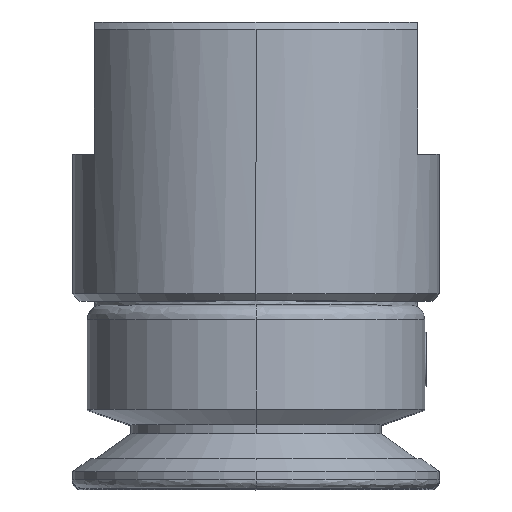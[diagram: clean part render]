
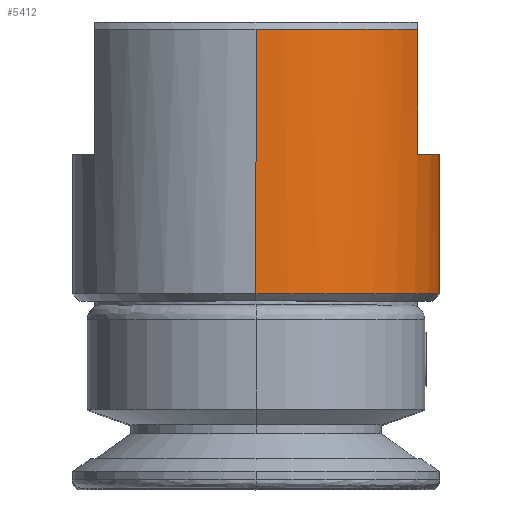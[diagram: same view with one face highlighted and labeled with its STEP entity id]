
A CAD part, top view. The second image highlights one B-rep face of the part: STEP entity #5412.
In plain terms, the highlighted cylindrical face has radius 12.5 mm (diameter 25 mm), a partial arc.
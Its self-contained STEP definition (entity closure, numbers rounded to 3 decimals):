
#168 = CARTESIAN_POINT ( 'NONE',  ( 0., 13.3, 0. ) ) ;
#191 = DIRECTION ( 'NONE',  ( 0., 0., -1. ) ) ;
#334 = EDGE_CURVE ( 'NONE', #5375, #3098, #5591, .T. ) ;
#422 = CYLINDRICAL_SURFACE ( 'NONE', #5331, 12.5 ) ;
#554 = VECTOR ( 'NONE', #3453, 1000. ) ;
#762 = LINE ( 'NONE', #6751, #554 ) ;
#831 = DIRECTION ( 'NONE',  ( 0., 0., -1. ) ) ;
#879 = CARTESIAN_POINT ( 'NONE',  ( 0., 31.3, -12.5 ) ) ;
#1272 = EDGE_LOOP ( 'NONE', ( #3823, #7706, #2082, #6918, #4963, #4316, #7432, #4283 ) ) ;
#1452 = AXIS2_PLACEMENT_3D ( 'NONE', #168, #4801, #831 ) ;
#1624 = DIRECTION ( 'NONE',  ( 0., 0., -1. ) ) ;
#1726 = VECTOR ( 'NONE', #8405, 1000. ) ;
#2082 = ORIENTED_EDGE ( 'NONE', *, *, #3660, .T. ) ;
#2285 = CARTESIAN_POINT ( 'NONE',  ( 11., 22.8, -5.937 ) ) ;
#2292 = CARTESIAN_POINT ( 'NONE',  ( 0., 22.8, 0. ) ) ;
#2335 = DIRECTION ( 'NONE',  ( 0., 0., -1. ) ) ;
#2586 = EDGE_CURVE ( 'NONE', #7233, #6202, #3907, .T. ) ;
#2654 = CARTESIAN_POINT ( 'NONE',  ( 0., 13.3, 12.5 ) ) ;
#2824 = CIRCLE ( 'NONE', #1452, 12.5 ) ;
#3015 = FACE_OUTER_BOUND ( 'NONE', #1272, .T. ) ;
#3098 = VERTEX_POINT ( 'NONE', #6579 ) ;
#3307 = EDGE_CURVE ( 'NONE', #6827, #5375, #762, .T. ) ;
#3453 = DIRECTION ( 'NONE',  ( 0., -1., 0. ) ) ;
#3562 = CARTESIAN_POINT ( 'NONE',  ( 11., 31.3, 5.937 ) ) ;
#3578 = AXIS2_PLACEMENT_3D ( 'NONE', #7558, #3647, #8205 ) ;
#3647 = DIRECTION ( 'NONE',  ( 0., -1., 0. ) ) ;
#3660 = EDGE_CURVE ( 'NONE', #8365, #6202, #2824, .T. ) ;
#3788 = AXIS2_PLACEMENT_3D ( 'NONE', #8070, #4161, #191 ) ;
#3823 = ORIENTED_EDGE ( 'NONE', *, *, #6453, .T. ) ;
#3835 = CARTESIAN_POINT ( 'NONE',  ( 11., 31.8, 5.937 ) ) ;
#3907 = LINE ( 'NONE', #6898, #7185 ) ;
#3972 = VERTEX_POINT ( 'NONE', #3562 ) ;
#4161 = DIRECTION ( 'NONE',  ( 0., -1., 0. ) ) ;
#4283 = ORIENTED_EDGE ( 'NONE', *, *, #8269, .T. ) ;
#4316 = ORIENTED_EDGE ( 'NONE', *, *, #3307, .T. ) ;
#4320 = CIRCLE ( 'NONE', #3788, 12.5 ) ;
#4419 = VECTOR ( 'NONE', #7279, 1000. ) ;
#4587 = CARTESIAN_POINT ( 'NONE',  ( 11., 31.3, -5.937 ) ) ;
#4801 = DIRECTION ( 'NONE',  ( 0., 1., 0. ) ) ;
#4963 = ORIENTED_EDGE ( 'NONE', *, *, #6552, .T. ) ;
#5331 = AXIS2_PLACEMENT_3D ( 'NONE', #6268, #8218, #2335 ) ;
#5375 = VERTEX_POINT ( 'NONE', #2285 ) ;
#5412 = ADVANCED_FACE ( 'NONE', ( #3015 ), #422, .T. ) ;
#5591 = CIRCLE ( 'NONE', #8171, 12.5 ) ;
#5958 = CIRCLE ( 'NONE', #3578, 12.5 ) ;
#6202 = VERTEX_POINT ( 'NONE', #8498 ) ;
#6246 = DIRECTION ( 'NONE',  ( 0., -1., 0. ) ) ;
#6268 = CARTESIAN_POINT ( 'NONE',  ( 0., 31.8, 0. ) ) ;
#6299 = VERTEX_POINT ( 'NONE', #7232 ) ;
#6453 = EDGE_CURVE ( 'NONE', #3972, #6299, #4320, .T. ) ;
#6552 = EDGE_CURVE ( 'NONE', #7233, #6827, #5958, .T. ) ;
#6579 = CARTESIAN_POINT ( 'NONE',  ( 11., 22.8, 5.937 ) ) ;
#6622 = CARTESIAN_POINT ( 'NONE',  ( 0., 31.8, 12.5 ) ) ;
#6751 = CARTESIAN_POINT ( 'NONE',  ( 11., 31.8, -5.937 ) ) ;
#6782 = LINE ( 'NONE', #3835, #1726 ) ;
#6827 = VERTEX_POINT ( 'NONE', #4587 ) ;
#6898 = CARTESIAN_POINT ( 'NONE',  ( 0., 31.8, -12.5 ) ) ;
#6918 = ORIENTED_EDGE ( 'NONE', *, *, #2586, .F. ) ;
#7185 = VECTOR ( 'NONE', #8220, 1000. ) ;
#7232 = CARTESIAN_POINT ( 'NONE',  ( 0., 31.3, 12.5 ) ) ;
#7233 = VERTEX_POINT ( 'NONE', #879 ) ;
#7279 = DIRECTION ( 'NONE',  ( 0., -1., 0. ) ) ;
#7432 = ORIENTED_EDGE ( 'NONE', *, *, #334, .T. ) ;
#7558 = CARTESIAN_POINT ( 'NONE',  ( 0., 31.3, 0. ) ) ;
#7671 = LINE ( 'NONE', #6622, #4419 ) ;
#7706 = ORIENTED_EDGE ( 'NONE', *, *, #8358, .T. ) ;
#8070 = CARTESIAN_POINT ( 'NONE',  ( 0., 31.3, 0. ) ) ;
#8171 = AXIS2_PLACEMENT_3D ( 'NONE', #2292, #6246, #1624 ) ;
#8205 = DIRECTION ( 'NONE',  ( 0., 0., -1. ) ) ;
#8218 = DIRECTION ( 'NONE',  ( 0., -1., 0. ) ) ;
#8220 = DIRECTION ( 'NONE',  ( 0., -1., 0. ) ) ;
#8269 = EDGE_CURVE ( 'NONE', #3098, #3972, #6782, .T. ) ;
#8358 = EDGE_CURVE ( 'NONE', #6299, #8365, #7671, .T. ) ;
#8365 = VERTEX_POINT ( 'NONE', #2654 ) ;
#8405 = DIRECTION ( 'NONE',  ( 0., 1., 0. ) ) ;
#8498 = CARTESIAN_POINT ( 'NONE',  ( 0., 13.3, -12.5 ) ) ;
